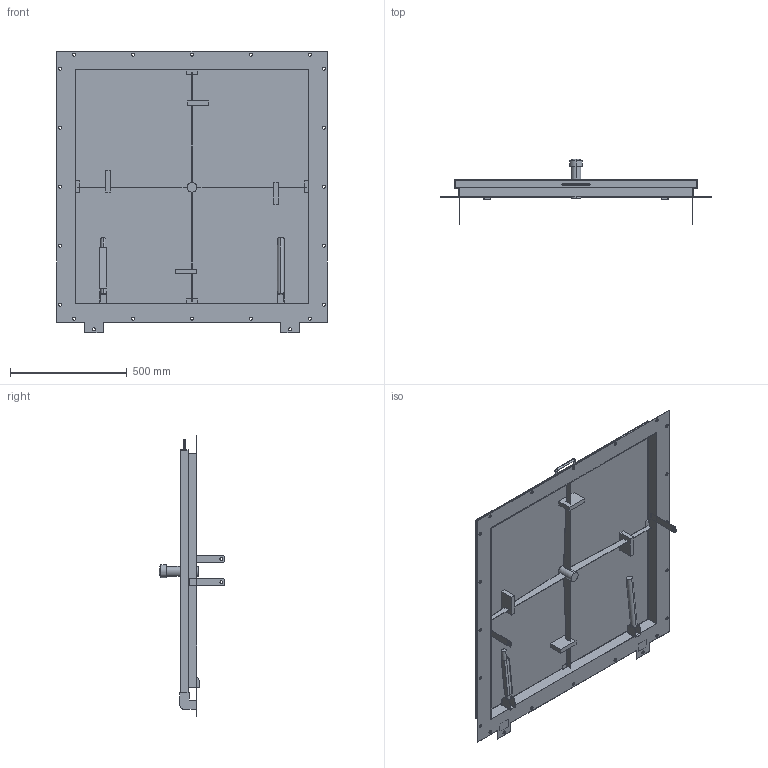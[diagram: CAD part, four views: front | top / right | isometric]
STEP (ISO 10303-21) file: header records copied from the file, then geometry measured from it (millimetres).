
FILE_DESCRIPTION((''),'2;1');
FILE_NAME('52427781','2025-08-05T10:49:56',('wep'),('HUBER SE'),'CREO PARAMETRIC BY PTC INC, 2022162','CREO PARAMETRIC BY PTC INC, 2022162','');
FILE_SCHEMA(('AUTOMOTIVE_DESIGN { 1 0 10303 214 1 1 1 1 }'));
Length unit declared in the file: millimetre
Products named in the file (1): 52427781
Bounding box: 1160 x 282 x 1205 mm (x, y, z)
Volume: 5083300.5 mm3; surface area: 3880213.5 mm2
Topology: 3 solids, 3 shells, 837 faces, 2277 edges, 1505 vertices
Faces by surface type: plane 484, extrusion 275, cylinder 72, sphere 2, bspline 2, torus 2
Entity records: 28288 total; most frequent: CARTESIAN_POINT 7361, ORIENTED_EDGE 4542, DIRECTION 3266, EDGE_CURVE 2271, VECTOR 1842, LINE 1567, VERTEX_POINT 1505, EDGE_LOOP 958
